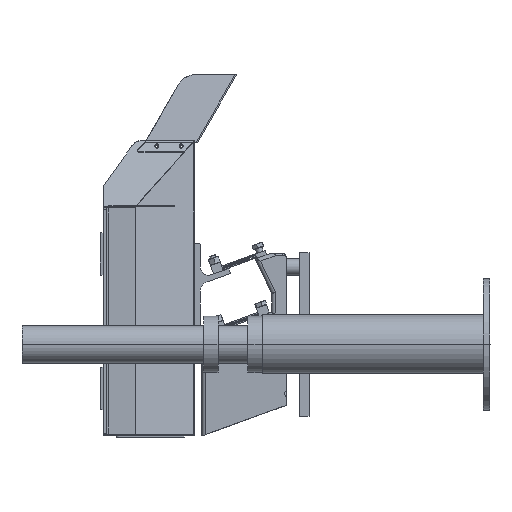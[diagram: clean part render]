
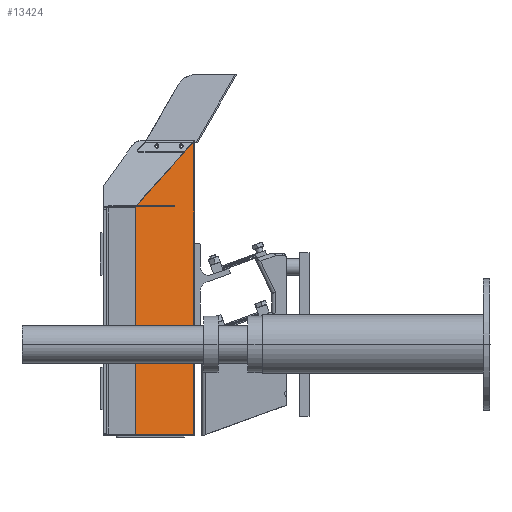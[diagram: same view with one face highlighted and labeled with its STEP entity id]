
A CAD part, left-side view. The second image highlights one B-rep face of the part: STEP entity #13424.
In plain terms, the highlighted planar face has unit normal (-0.874, -0.486, 0).
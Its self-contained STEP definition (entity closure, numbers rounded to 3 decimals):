
#431 = PLANE ( 'NONE',  #5685 ) ;
#561 = DIRECTION ( 'NONE',  ( 0.874, 0.486, 0. ) ) ;
#1707 = DIRECTION ( 'NONE',  ( 0., 0., 1. ) ) ;
#3578 = VERTEX_POINT ( 'NONE', #17074 ) ;
#3935 = CARTESIAN_POINT ( 'NONE',  ( -125., 20., 0. ) ) ;
#4207 = DIRECTION ( 'NONE',  ( 0.348, -0.627, 0.697 ) ) ;
#5554 = CARTESIAN_POINT ( 'NONE',  ( -125., 20., 450. ) ) ;
#5685 = AXIS2_PLACEMENT_3D ( 'NONE', #20891, #561, #14479 ) ;
#7340 = DIRECTION ( 'NONE',  ( 0., 0., 1. ) ) ;
#7435 = CARTESIAN_POINT ( 'NONE',  ( -75., -70., 450. ) ) ;
#7464 = LINE ( 'NONE', #5554, #23197 ) ;
#9589 = ORIENTED_EDGE ( 'NONE', *, *, #20139, .F. ) ;
#10599 = DIRECTION ( 'NONE',  ( 0.486, -0.874, 0. ) ) ;
#13181 = VECTOR ( 'NONE', #4207, 1000. ) ;
#13220 = VERTEX_POINT ( 'NONE', #25853 ) ;
#13241 = EDGE_LOOP ( 'NONE', ( #9589, #14257, #13526, #21113 ) ) ;
#13424 = ADVANCED_FACE ( 'NONE', ( #18840 ), #431, .F. ) ;
#13526 = ORIENTED_EDGE ( 'NONE', *, *, #20173, .T. ) ;
#14257 = ORIENTED_EDGE ( 'NONE', *, *, #18179, .F. ) ;
#14479 = DIRECTION ( 'NONE',  ( 0., 0., -1. ) ) ;
#14538 = VERTEX_POINT ( 'NONE', #21987 ) ;
#15069 = LINE ( 'NONE', #7435, #26493 ) ;
#17074 = CARTESIAN_POINT ( 'NONE',  ( -125., 20., 350. ) ) ;
#17559 = VECTOR ( 'NONE', #10599, 1000. ) ;
#18179 = EDGE_CURVE ( 'NONE', #14538, #3578, #7464, .T. ) ;
#18780 = CARTESIAN_POINT ( 'NONE',  ( -125., 20., 350. ) ) ;
#18840 = FACE_OUTER_BOUND ( 'NONE', #13241, .T. ) ;
#19989 = VERTEX_POINT ( 'NONE', #20583 ) ;
#20139 = EDGE_CURVE ( 'NONE', #3578, #19989, #22876, .T. ) ;
#20173 = EDGE_CURVE ( 'NONE', #14538, #13220, #24671, .T. ) ;
#20583 = CARTESIAN_POINT ( 'NONE',  ( -75., -70., 450. ) ) ;
#20891 = CARTESIAN_POINT ( 'NONE',  ( -125., 20., 450. ) ) ;
#21113 = ORIENTED_EDGE ( 'NONE', *, *, #26730, .T. ) ;
#21987 = CARTESIAN_POINT ( 'NONE',  ( -125., 20., 0. ) ) ;
#22876 = LINE ( 'NONE', #18780, #13181 ) ;
#23197 = VECTOR ( 'NONE', #7340, 1000. ) ;
#24671 = LINE ( 'NONE', #3935, #17559 ) ;
#25853 = CARTESIAN_POINT ( 'NONE',  ( -75., -70., 0. ) ) ;
#26493 = VECTOR ( 'NONE', #1707, 1000. ) ;
#26730 = EDGE_CURVE ( 'NONE', #13220, #19989, #15069, .T. ) ;
